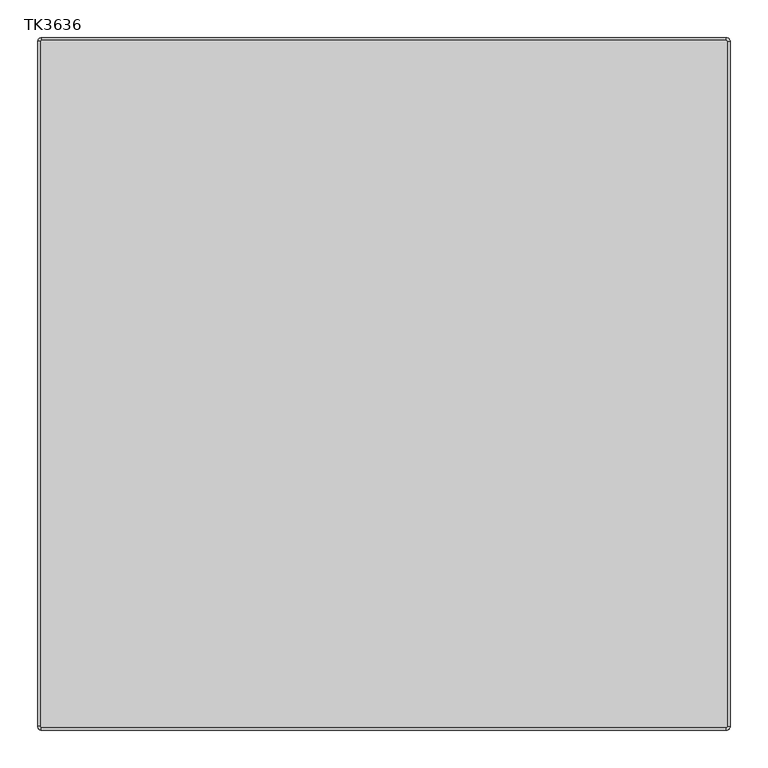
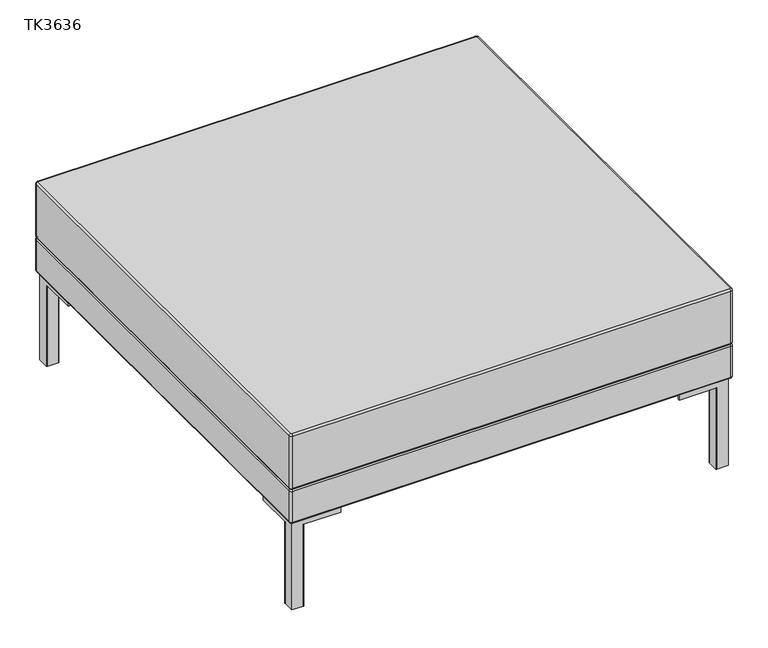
"""IFC4 building model written with IfcOpenShell, lengths in millimetres: furniture geometry, JSI-Teekan-Square_Ottoman : TK3636."""

from ifc_helpers import new_model, si_unit, point, frame, origin, place, context, project, spatial, circle_curve, ellipse_curve, trimmed, source, transform, mapped, element, save
from ifc_brep_helpers import plane_surface, cylinder_surface, revolved_surface, advanced_brep


def tk3636_2cfd0a29(model_context):
    return source(origin(), model_context, "Body", "AdvancedBrep", [
        advanced_brep(
        [(407.9875, -349.25, 192.6567329), (349.25, -407.9875, 192.6567329), (349.25, -449.2963055, 192.6567329), (449.2963055, -449.2963055, 192.6567329), (449.2963055, -349.25, 192.6567329), (349.25, -407.9875, 189.4817329), (407.9875, -349.25, 189.4817329), (447.675, -349.25, 189.4817329), (447.675, -425.45, 189.4817329), (427.0445539, -425.45, 189.4817329), (425.45, -427.0445539, 189.4817329), (425.45, -447.675, 189.4817329), (349.25, -447.675, 189.4817329), (450.85, -349.25, 191.1030384), (450.85, -349.25, 178.3692329), (447.675, -349.25, 178.3692329), (349.25, -447.675, 178.3692329), (349.25, -450.85, 178.3692329), (349.25, -450.85, 191.1030384), (449.2715276, -425.45, 0.0), (450.85, -427.0284724, 0.0), (450.85, -450.85, 0.0), (427.0303762, -450.85, 0.0), (425.45, -449.2696238, 0.0), (425.45, -427.0445539, 0.0), (427.0445539, -425.45, 0.0), (447.675, -425.45, 178.3692329), (449.2715276, -425.45, 178.3692329), (425.45, -449.2696238, 178.3692329), (425.45, -447.675, 178.3692329), (427.0303762, -450.85, 178.3692329), (450.85, -450.85, 191.1030384), (450.85, -427.0284724, 178.3692329)],
        [
            (0, 1),
            (1, 2),
            (2, 3),
            (3, 4),
            (4, 0),
            (5, 6),
            (6, 7),
            (7, 8),
            (8, 9),
            (9, 10, circle_curve(frame((427.0445539, -427.0445539, 189.4817329), z_axis=(0.0, 0.0, 1.0), x_axis=(-1.0, 0.0, 0.0)), 1.5945539)),
            (10, 11),
            (11, 12),
            (12, 5),
            (4, 13, circle_curve(frame((449.2963055, -349.25, 191.1030384), z_axis=(0.0, 1.0, 0.0), x_axis=(-1.0, 0.0, 0.0)), 1.5536945)),
            (13, 14),
            (14, 15),
            (15, 7),
            (6, 0),
            (5, 1),
            (12, 16),
            (16, 17),
            (17, 18),
            (18, 2, circle_curve(frame((349.25, -449.2963055, 191.1030384), z_axis=(-1.0, 0.0, 0.0), x_axis=(0.0, 1.0, 0.0)), 1.5536945)),
            (19, 20, circle_curve(frame((449.2715276, -427.0284724, 0.0), z_axis=(0.0, 0.0, -1.0), x_axis=(-1.0, 0.0, 0.0)), 1.5784724)),
            (20, 21),
            (21, 22),
            (22, 23, circle_curve(frame((427.0303762, -449.2696238, 0.0), z_axis=(0.0, 0.0, -1.0), x_axis=(-1.0, 0.0, 0.0)), 1.5803762)),
            (23, 24),
            (24, 25, circle_curve(frame((427.0445539, -427.0445539, 0.0), z_axis=(0.0, 0.0, -1.0), x_axis=(-1.0, 0.0, 0.0)), 1.5945539)),
            (25, 19),
            (25, 9),
            (8, 26),
            (26, 27),
            (27, 19),
            (24, 10),
            (23, 28),
            (28, 29),
            (29, 11),
            (22, 30),
            (30, 28, circle_curve(frame((427.0303762, -449.2696238, 178.3692329), z_axis=(0.0, 0.0, -1.0), x_axis=(-1.0, 0.0, 0.0)), 1.5803762)),
            (21, 31),
            (31, 18),
            (17, 30),
            (20, 32),
            (32, 14),
            (13, 31),
            (27, 32, circle_curve(frame((449.2715276, -427.0284724, 178.3692329), z_axis=(0.0, 0.0, -1.0), x_axis=(-1.0, 0.0, 0.0)), 1.5784724)),
            (29, 16),
            (26, 15),
            (31, 3, ellipse_curve(frame((449.2963055, -449.2963055, 191.1030384), z_axis=(-0.7071067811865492, -0.7071067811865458, 0.0), x_axis=(-0.7071067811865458, 0.7071067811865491, 0.0)), 2.1972559, 1.5536945)),
        ],
        [
            plane_surface(frame((435.0204481, -435.0204481, 192.6567329), z_axis=(0.0, 0.0, 1.0), x_axis=(1.0, 0.0, 0.0))),
            plane_surface(frame((435.0204481, -435.0204481, 189.4817329), z_axis=(0.0, 0.0, -1.0), x_axis=(-1.0, 0.0, 0.0))),
            plane_surface(frame((435.0204481, -349.25, 192.6567329), z_axis=(0.0, 1.0, 0.0), x_axis=(0.0, 0.0, -1.0))),
            plane_surface(frame((407.9875, -349.25, 192.6567329), z_axis=(-0.7071067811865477, 0.7071067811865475, 0.0), x_axis=(0.0, 0.0, -1.0))),
            plane_surface(frame((349.25, -407.9875, 192.6567329), z_axis=(-1.0, 0.0, 0.0), x_axis=(0.0, 0.0, -1.0))),
            plane_surface(frame((427.0375, -425.45, 0.0), z_axis=(0.0, 0.0, -1.0), x_axis=(1.0, 0.0, 0.0))),
            plane_surface(frame((449.2715276, -425.45, 189.4817329), z_axis=(0.0, 1.0, 0.0), x_axis=(0.0, 0.0, -1.0))),
            cylinder_surface(frame((427.0445539, -427.0445539, 0.0), z_axis=(0.0, 0.0, 1.0), x_axis=(-1.0, 0.0, 0.0)), 1.5945539),
            plane_surface(frame((425.45, -427.0445539, 189.4817329), z_axis=(-1.0, 0.0, 0.0), x_axis=(0.0, 0.0, -1.0))),
            cylinder_surface(frame((427.0303762, -449.2696238, 0.0), z_axis=(0.0, 0.0, 1.0), x_axis=(-1.0, 0.0, 0.0)), 1.5803762),
            plane_surface(frame((427.0303762, -450.85, 189.4817329), z_axis=(0.0, -1.0, 0.0), x_axis=(0.0, 0.0, -1.0))),
            plane_surface(frame((450.85, -450.85, 189.4817329), z_axis=(1.0, 0.0, 0.0), x_axis=(0.0, 0.0, -1.0))),
            cylinder_surface(frame((449.2715276, -427.0284724, 0.0), z_axis=(0.0, 0.0, 1.0), x_axis=(-1.0, 0.0, 0.0)), 1.5784724),
            plane_surface(frame((349.25, -447.675, 189.4817329), z_axis=(0.0, 1.0, 0.0), x_axis=(1.0, 0.0, 0.0))),
            plane_surface(frame((349.25, -447.675, 178.3692329), z_axis=(0.0, 0.0, -1.0), x_axis=(1.0, 0.0, 0.0))),
            cylinder_surface(frame((349.25, -449.2963055, 191.1030384), z_axis=(-1.0, 0.0, 0.0), x_axis=(0.0, 1.0, 0.0)), 1.5536945),
            plane_surface(frame((447.675, -447.675, 189.4817329), z_axis=(-1.0, 0.0, 0.0), x_axis=(0.0, 1.0, 0.0))),
            cylinder_surface(frame((449.2963055, -450.85, 191.1030384), z_axis=(0.0, -1.0, 0.0), x_axis=(-1.0, 0.0, 0.0)), 1.5536945),
        ],
        [
            (0, [[1, 2, 3, 4, 5]]),
            (1, [[6, 7, 8, 9, 10, 11, 12, 13]]),
            (2, [[-5, 14, 15, 16, 17, -7, 18]]),
            (3, [[-1, -18, -6, 19]]),
            (4, [[-2, -19, -13, 20, 21, 22, 23]]),
            (5, [[24, 25, 26, 27, 28, 29, 30]]),
            (6, [[-30, 31, -9, 32, 33, 34]]),
            (7, [[-29, 35, -10, -31]]),
            (8, [[-28, 36, 37, 38, -11, -35]]),
            (9, [[-27, 39, 40, -36]]),
            (10, [[-26, 41, 42, -22, 43, -39]]),
            (11, [[-41, -25, 44, 45, -15, 46]]),
            (12, [[-24, -34, 47, -44]]),
            (13, [[-20, -12, -38, 48]]),
            (14, [[-16, -45, -47, -33, 49]]),
            (14, [[-21, -48, -37, -40, -43]]),
            (15, [[-23, -42, 50, -3]]),
            (16, [[-17, -49, -32, -8]]),
            (17, [[-50, -46, -14, -4]]),
        ],
    ),
        advanced_brep(
        [(407.9875, 349.25, 192.6567329), (449.2963055, 349.25, 192.6567329), (449.2963055, 449.2963055, 192.6567329), (349.25, 449.2963055, 192.6567329), (349.25, 407.9875, 192.6567329), (349.25, 407.9875, 189.4817329), (349.25, 447.675, 189.4817329), (425.45, 447.675, 189.4817329), (425.45, 427.0445539, 189.4817329), (427.0445539, 425.45, 189.4817329), (447.675, 425.45, 189.4817329), (447.675, 349.25, 189.4817329), (407.9875, 349.25, 189.4817329), (447.675, 349.25, 178.3692329), (450.85, 349.25, 178.3692329), (450.85, 349.25, 191.1030384), (349.25, 450.85, 191.1030384), (349.25, 450.85, 178.3692329), (349.25, 447.675, 178.3692329), (449.2715276, 425.45, 0.0), (427.0445539, 425.45, 0.0), (425.45, 427.0445539, 0.0), (425.45, 449.2696238, 0.0), (427.0303762, 450.85, 0.0), (450.85, 450.85, 0.0), (450.85, 427.0284724, 0.0), (449.2715276, 425.45, 178.3692329), (447.675, 425.45, 178.3692329), (425.45, 447.675, 178.3692329), (425.45, 449.2696238, 178.3692329), (427.0303762, 450.85, 178.3692329), (450.85, 450.85, 191.1030384), (450.85, 427.0284724, 178.3692329)],
        [
            (0, 1),
            (1, 2),
            (2, 3),
            (3, 4),
            (4, 0),
            (5, 6),
            (6, 7),
            (7, 8),
            (8, 9, circle_curve(frame((427.0445539, 427.0445539, 189.4817329), z_axis=(0.0, 0.0, 1.0), x_axis=(-1.0, 0.0, 0.0)), 1.5945539)),
            (9, 10),
            (10, 11),
            (11, 12),
            (12, 5),
            (0, 12),
            (11, 13),
            (13, 14),
            (14, 15),
            (15, 1, circle_curve(frame((449.2963055, 349.25, 191.1030384), z_axis=(0.0, -1.0, 0.0), x_axis=(-1.0, 0.0, 0.0)), 1.5536945)),
            (4, 5),
            (3, 16, circle_curve(frame((349.25, 449.2963055, 191.1030384), z_axis=(-1.0, 0.0, 0.0), x_axis=(0.0, -1.0, 0.0)), 1.5536945)),
            (16, 17),
            (17, 18),
            (18, 6),
            (19, 20),
            (20, 21, circle_curve(frame((427.0445539, 427.0445539, 0.0), z_axis=(0.0, 0.0, -1.0), x_axis=(-1.0, 0.0, 0.0)), 1.5945539)),
            (21, 22),
            (22, 23, circle_curve(frame((427.0303762, 449.2696238, 0.0), z_axis=(0.0, 0.0, -1.0), x_axis=(-1.0, 0.0, 0.0)), 1.5803762)),
            (23, 24),
            (24, 25),
            (25, 19, circle_curve(frame((449.2715276, 427.0284724, 0.0), z_axis=(0.0, 0.0, -1.0), x_axis=(-1.0, 0.0, 0.0)), 1.5784724)),
            (19, 26),
            (26, 27),
            (27, 10),
            (9, 20),
            (8, 21),
            (7, 28),
            (28, 29),
            (29, 22),
            (29, 30, circle_curve(frame((427.0303762, 449.2696238, 178.3692329), z_axis=(0.0, 0.0, -1.0), x_axis=(-1.0, 0.0, 0.0)), 1.5803762)),
            (30, 23),
            (30, 17),
            (16, 31),
            (31, 24),
            (31, 15),
            (14, 32),
            (32, 25),
            (32, 26, circle_curve(frame((449.2715276, 427.0284724, 178.3692329), z_axis=(0.0, 0.0, -1.0), x_axis=(-1.0, 0.0, 0.0)), 1.5784724)),
            (18, 28),
            (13, 27),
            (2, 31, ellipse_curve(frame((449.2963055, 449.2963055, 191.1030384), z_axis=(-0.7071067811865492, 0.7071067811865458, 0.0), x_axis=(-0.7071067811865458, -0.7071067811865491, 0.0)), 2.1972559, 1.5536945)),
        ],
        [
            plane_surface(frame((435.0204481, 435.0204481, 192.6567329), z_axis=(0.0, 0.0, 1.0), x_axis=(1.0, 0.0, 0.0))),
            plane_surface(frame((435.0204481, 435.0204481, 189.4817329), z_axis=(0.0, 0.0, -1.0), x_axis=(-1.0, 0.0, 0.0))),
            plane_surface(frame((435.0204481, 349.25, 192.6567329), z_axis=(0.0, -1.0, 0.0), x_axis=(0.0, 0.0, -1.0))),
            plane_surface(frame((407.9875, 349.25, 192.6567329), z_axis=(-0.7071067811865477, -0.7071067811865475, 0.0), x_axis=(0.0, 0.0, -1.0))),
            plane_surface(frame((349.25, 407.9875, 192.6567329), z_axis=(-1.0, 0.0, 0.0), x_axis=(0.0, 0.0, -1.0))),
            plane_surface(frame((427.0375, 425.45, 0.0), z_axis=(0.0, 0.0, -1.0), x_axis=(1.0, 0.0, 0.0))),
            plane_surface(frame((449.2715276, 425.45, 189.4817329), z_axis=(0.0, -1.0, 0.0), x_axis=(0.0, 0.0, -1.0))),
            cylinder_surface(frame((427.0445539, 427.0445539, 0.0), z_axis=(0.0, 0.0, 1.0), x_axis=(-1.0, 0.0, 0.0)), 1.5945539),
            plane_surface(frame((425.45, 427.0445539, 189.4817329), z_axis=(-1.0, 0.0, 0.0), x_axis=(0.0, 0.0, -1.0))),
            cylinder_surface(frame((427.0303762, 449.2696238, 0.0), z_axis=(0.0, 0.0, 1.0), x_axis=(-1.0, 0.0, 0.0)), 1.5803762),
            plane_surface(frame((427.0303762, 450.85, 189.4817329), z_axis=(0.0, 1.0, 0.0), x_axis=(0.0, 0.0, -1.0))),
            plane_surface(frame((450.85, 450.85, 189.4817329), z_axis=(1.0, 0.0, 0.0), x_axis=(0.0, 0.0, -1.0))),
            cylinder_surface(frame((449.2715276, 427.0284724, 0.0), z_axis=(0.0, 0.0, 1.0), x_axis=(-1.0, 0.0, 0.0)), 1.5784724),
            plane_surface(frame((349.25, 447.675, 189.4817329), z_axis=(0.0, -1.0, 0.0), x_axis=(1.0, 0.0, 0.0))),
            plane_surface(frame((349.25, 447.675, 178.3692329), z_axis=(0.0, 0.0, -1.0), x_axis=(1.0, 0.0, 0.0))),
            cylinder_surface(frame((349.25, 449.2963055, 191.1030384), z_axis=(-1.0, 0.0, 0.0), x_axis=(0.0, -1.0, 0.0)), 1.5536945),
            plane_surface(frame((447.675, 447.675, 189.4817329), z_axis=(-1.0, 0.0, 0.0), x_axis=(0.0, -1.0, 0.0))),
            cylinder_surface(frame((449.2963055, 450.85, 191.1030384), z_axis=(0.0, 1.0, 0.0), x_axis=(-1.0, 0.0, 0.0)), 1.5536945),
        ],
        [
            (0, [[1, 2, 3, 4, 5]]),
            (1, [[6, 7, 8, 9, 10, 11, 12, 13]]),
            (2, [[14, -12, 15, 16, 17, 18, -1]]),
            (3, [[19, -13, -14, -5]]),
            (4, [[20, 21, 22, 23, -6, -19, -4]]),
            (5, [[24, 25, 26, 27, 28, 29, 30]]),
            (6, [[31, 32, 33, -10, 34, -24]]),
            (7, [[-34, -9, 35, -25]]),
            (8, [[-35, -8, 36, 37, 38, -26]]),
            (9, [[-38, 39, 40, -27]]),
            (10, [[-40, 41, -21, 42, 43, -28]]),
            (11, [[44, -17, 45, 46, -29, -43]]),
            (12, [[-46, 47, -31, -30]]),
            (13, [[48, -36, -7, -23]]),
            (14, [[-41, -39, -37, -48, -22]]),
            (14, [[49, -32, -47, -45, -16]]),
            (15, [[-3, 50, -42, -20]]),
            (16, [[-11, -33, -49, -15]]),
            (17, [[-2, -18, -44, -50]]),
        ],
    ),
        advanced_brep(
        [(457.2, 452.4375, 384.2438984), (452.4375, 457.2, 384.2438984), (452.4375, 454.025, 387.4188984), (454.025, 452.4375, 387.4188984), (457.2, 452.4375, 269.9438984), (452.4375, 457.2, 269.9438984), (454.025, 452.4375, 266.7688984), (452.4375, 454.025, 266.7688984), (454.025, -452.4375, 387.4188984), (457.2, -452.4375, 384.2438984), (457.2, -452.4375, 269.9438984), (454.025, -452.4375, 266.7688984), (452.4375, -454.025, 387.4188984), (452.4375, -457.2, 384.2438984), (452.4375, -457.2, 269.9438984), (452.4375, -454.025, 266.7688984), (-452.4375, -454.025, 387.4188984), (-452.4375, -457.2, 384.2438984), (-452.4375, -457.2, 269.9438984), (-452.4375, -454.025, 266.7688984), (-454.025, -452.4375, 387.4188984), (-457.2, -452.4375, 384.2438984), (-457.2, -452.4375, 269.9438984), (-454.025, -452.4375, 266.7688984), (-454.025, 452.4375, 387.4188984), (-457.2, 452.4375, 384.2438984), (-457.2, 452.4375, 269.9438984), (-454.025, 452.4375, 266.7688984), (-452.4375, 454.025, 387.4188984), (-452.4375, 457.2, 384.2438984), (-452.4375, 457.2, 269.9438984), (-452.4375, 454.025, 266.7688984)],
        [
            (0, 1, circle_curve(frame((452.4375, 452.4375, 384.2438984), z_axis=(0.0, 0.0, 1.0), x_axis=(0.0, 1.0, 0.0)), 4.7625)),
            (1, 2, circle_curve(frame((452.4375, 454.025, 384.2438984), z_axis=(1.0, 0.0, 0.0), x_axis=(0.0, 1.0, 0.0)), 3.175)),
            (2, 3, circle_curve(frame((452.4375, 452.4375, 387.4188984), z_axis=(0.0, 0.0, -1.0), x_axis=(0.0, 1.0, 0.0)), 1.5875)),
            (3, 0, circle_curve(frame((454.025, 452.4375, 384.2438984), z_axis=(0.0, 1.0, 0.0), x_axis=(1.0, 0.0, 0.0)), 3.175)),
            (0, 4),
            (4, 5, circle_curve(frame((452.4375, 452.4375, 269.9438984), z_axis=(0.0, 0.0, 1.0), x_axis=(0.0, 1.0, 0.0)), 4.7625)),
            (5, 1),
            (4, 6, circle_curve(frame((454.025, 452.4375, 269.9438984), z_axis=(0.0, 1.0, 0.0), x_axis=(1.0, 0.0, 0.0)), 3.175)),
            (6, 7, circle_curve(frame((452.4375, 452.4375, 266.7688984), z_axis=(0.0, 0.0, 1.0), x_axis=(0.0, 1.0, 0.0)), 1.5875)),
            (7, 5, circle_curve(frame((452.4375, 454.025, 269.9438984), z_axis=(1.0, 0.0, 0.0), x_axis=(0.0, 1.0, 0.0)), 3.175)),
            (3, 8),
            (8, 9, circle_curve(frame((454.025, -452.4375, 384.2438984), z_axis=(0.0, 1.0, 0.0), x_axis=(1.0, 0.0, 0.0)), 3.175)),
            (9, 0),
            (9, 10),
            (10, 4),
            (10, 11, circle_curve(frame((454.025, -452.4375, 269.9438984), z_axis=(0.0, 1.0, 0.0), x_axis=(1.0, 0.0, 0.0)), 3.175)),
            (11, 6),
            (8, 12, circle_curve(frame((452.4375, -452.4375, 387.4188984), z_axis=(0.0, 0.0, -1.0), x_axis=(1.0, 0.0, 0.0)), 1.5875)),
            (12, 13, circle_curve(frame((452.4375, -454.025, 384.2438984), z_axis=(1.0, 0.0, 0.0), x_axis=(0.0, -1.0, 0.0)), 3.175)),
            (13, 9, circle_curve(frame((452.4375, -452.4375, 384.2438984), z_axis=(0.0, 0.0, 1.0), x_axis=(1.0, 0.0, 0.0)), 4.7625)),
            (13, 14),
            (14, 10, circle_curve(frame((452.4375, -452.4375, 269.9438984), z_axis=(0.0, 0.0, 1.0), x_axis=(1.0, 0.0, 0.0)), 4.7625)),
            (14, 15, circle_curve(frame((452.4375, -454.025, 269.9438984), z_axis=(1.0, 0.0, 0.0), x_axis=(0.0, -1.0, 0.0)), 3.175)),
            (15, 11, circle_curve(frame((452.4375, -452.4375, 266.7688984), z_axis=(0.0, 0.0, 1.0), x_axis=(1.0, 0.0, 0.0)), 1.5875)),
            (12, 16),
            (16, 17, circle_curve(frame((-452.4375, -454.025, 384.2438984), z_axis=(1.0, 0.0, 0.0), x_axis=(0.0, -1.0, 0.0)), 3.175)),
            (17, 13),
            (17, 18),
            (18, 14),
            (18, 19, circle_curve(frame((-452.4375, -454.025, 269.9438984), z_axis=(1.0, 0.0, 0.0), x_axis=(0.0, -1.0, 0.0)), 3.175)),
            (19, 15),
            (16, 20, circle_curve(frame((-452.4375, -452.4375, 387.4188984), z_axis=(0.0, 0.0, -1.0), x_axis=(0.0, -1.0, 0.0)), 1.5875)),
            (20, 21, circle_curve(frame((-454.025, -452.4375, 384.2438984), z_axis=(0.0, -1.0, 0.0), x_axis=(-1.0, 0.0, 0.0)), 3.175)),
            (21, 17, circle_curve(frame((-452.4375, -452.4375, 384.2438984), z_axis=(0.0, 0.0, 1.0), x_axis=(0.0, -1.0, 0.0)), 4.7625)),
            (21, 22),
            (22, 18, circle_curve(frame((-452.4375, -452.4375, 269.9438984), z_axis=(0.0, 0.0, 1.0), x_axis=(0.0, -1.0, 0.0)), 4.7625)),
            (22, 23, circle_curve(frame((-454.025, -452.4375, 269.9438984), z_axis=(0.0, -1.0, 0.0), x_axis=(-1.0, 0.0, 0.0)), 3.175)),
            (23, 19, circle_curve(frame((-452.4375, -452.4375, 266.7688984), z_axis=(0.0, 0.0, 1.0), x_axis=(0.0, -1.0, 0.0)), 1.5875)),
            (20, 24),
            (24, 25, circle_curve(frame((-454.025, 452.4375, 384.2438984), z_axis=(0.0, -1.0, 0.0), x_axis=(-1.0, 0.0, 0.0)), 3.175)),
            (25, 21),
            (25, 26),
            (26, 22),
            (26, 27, circle_curve(frame((-454.025, 452.4375, 269.9438984), z_axis=(0.0, -1.0, 0.0), x_axis=(-1.0, 0.0, 0.0)), 3.175)),
            (27, 23),
            (24, 28, circle_curve(frame((-452.4375, 452.4375, 387.4188984), z_axis=(0.0, 0.0, -1.0), x_axis=(-1.0, 0.0, 0.0)), 1.5875)),
            (28, 29, circle_curve(frame((-452.4375, 454.025, 384.2438984), z_axis=(-1.0, 0.0, 0.0), x_axis=(0.0, 1.0, 0.0)), 3.175)),
            (29, 25, circle_curve(frame((-452.4375, 452.4375, 384.2438984), z_axis=(0.0, 0.0, 1.0), x_axis=(-1.0, 0.0, 0.0)), 4.7625)),
            (29, 30),
            (30, 26, circle_curve(frame((-452.4375, 452.4375, 269.9438984), z_axis=(0.0, 0.0, 1.0), x_axis=(-1.0, 0.0, 0.0)), 4.7625)),
            (30, 31, circle_curve(frame((-452.4375, 454.025, 269.9438984), z_axis=(-1.0, 0.0, 0.0), x_axis=(0.0, 1.0, 0.0)), 3.175)),
            (31, 27, circle_curve(frame((-452.4375, 452.4375, 266.7688984), z_axis=(0.0, 0.0, 1.0), x_axis=(-1.0, 0.0, 0.0)), 1.5875)),
            (31, 7),
            (2, 28),
            (1, 29),
            (5, 30),
        ],
        [
            revolved_surface(trimmed(ellipse_curve(frame((452.4375, 454.025, 384.2438984), z_axis=(-1.0, 0.0, 0.0), x_axis=(0.0, 1.0, 0.0)), 3.175, 3.175), [point((452.4375, 454.025, 387.4188984))], [point((452.4375, 457.2, 384.2438984))], True, "CARTESIAN"), (452.4375, 452.4375, 0.0), (0.0, 0.0, -1.0)),
            cylinder_surface(frame((452.4375, 452.4375, 0.0), z_axis=(0.0, 0.0, -1.0), x_axis=(0.0, 1.0, 0.0)), 4.7625),
            revolved_surface(trimmed(ellipse_curve(frame((452.4375, 454.025, 269.9438984), z_axis=(-1.0, 0.0, 0.0), x_axis=(0.0, 1.0, 0.0)), 3.175, 3.175), [point((452.4375, 457.2, 269.9438984))], [point((452.4375, 454.025, 266.7688984))], True, "CARTESIAN"), (452.4375, 452.4375, 0.0), (0.0, 0.0, -1.0)),
            cylinder_surface(frame((454.025, 452.4375, 384.2438984), z_axis=(0.0, 1.0, 0.0), x_axis=(1.0, 0.0, 0.0)), 3.175),
            plane_surface(frame((457.2, 452.4375, 384.2438984), z_axis=(1.0, 0.0, 0.0), x_axis=(0.0, -1.0, 0.0))),
            cylinder_surface(frame((454.025, 452.4375, 269.9438984), z_axis=(0.0, 1.0, 0.0), x_axis=(1.0, 0.0, 0.0)), 3.175),
            revolved_surface(trimmed(ellipse_curve(frame((454.025, -452.4375, 384.2438984), z_axis=(0.0, 1.0, 0.0), x_axis=(1.0, 0.0, 0.0)), 3.175, 3.175), [point((454.025, -452.4375, 387.4188984))], [point((457.2, -452.4375, 384.2438984))], True, "CARTESIAN"), (452.4375, -452.4375, 0.0), (0.0, 0.0, -1.0)),
            cylinder_surface(frame((452.4375, -452.4375, 0.0), z_axis=(0.0, 0.0, -1.0), x_axis=(1.0, 0.0, 0.0)), 4.7625),
            revolved_surface(trimmed(ellipse_curve(frame((454.025, -452.4375, 269.9438984), z_axis=(0.0, 1.0, 0.0), x_axis=(1.0, 0.0, 0.0)), 3.175, 3.175), [point((457.2, -452.4375, 269.9438984))], [point((454.025, -452.4375, 266.7688984))], True, "CARTESIAN"), (452.4375, -452.4375, 0.0), (0.0, 0.0, -1.0)),
            cylinder_surface(frame((452.4375, -454.025, 384.2438984), z_axis=(1.0, 0.0, 0.0), x_axis=(0.0, -1.0, 0.0)), 3.175),
            plane_surface(frame((452.4375, -457.2, 384.2438984), z_axis=(0.0, -1.0, 0.0), x_axis=(-1.0, 0.0, 0.0))),
            cylinder_surface(frame((452.4375, -454.025, 269.9438984), z_axis=(1.0, 0.0, 0.0), x_axis=(0.0, -1.0, 0.0)), 3.175),
            revolved_surface(trimmed(ellipse_curve(frame((-452.4375, -454.025, 384.2438984), z_axis=(1.0, 0.0, 0.0), x_axis=(0.0, -1.0, 0.0)), 3.175, 3.175), [point((-452.4375, -454.025, 387.4188984))], [point((-452.4375, -457.2, 384.2438984))], True, "CARTESIAN"), (-452.4375, -452.4375, 0.0), (0.0, 0.0, -1.0)),
            cylinder_surface(frame((-452.4375, -452.4375, 0.0), z_axis=(0.0, 0.0, -1.0), x_axis=(0.0, -1.0, 0.0)), 4.7625),
            revolved_surface(trimmed(ellipse_curve(frame((-452.4375, -454.025, 269.9438984), z_axis=(1.0, 0.0, 0.0), x_axis=(0.0, -1.0, 0.0)), 3.175, 3.175), [point((-452.4375, -457.2, 269.9438984))], [point((-452.4375, -454.025, 266.7688984))], True, "CARTESIAN"), (-452.4375, -452.4375, 0.0), (0.0, 0.0, -1.0)),
            cylinder_surface(frame((-454.025, -452.4375, 384.2438984), z_axis=(0.0, -1.0, 0.0), x_axis=(-1.0, 0.0, 0.0)), 3.175),
            plane_surface(frame((-457.2, -452.4375, 384.2438984), z_axis=(-1.0, 0.0, 0.0), x_axis=(0.0, 1.0, 0.0))),
            cylinder_surface(frame((-454.025, -452.4375, 269.9438984), z_axis=(0.0, -1.0, 0.0), x_axis=(-1.0, 0.0, 0.0)), 3.175),
            revolved_surface(trimmed(ellipse_curve(frame((-454.025, 452.4375, 384.2438984), z_axis=(0.0, -1.0, 0.0), x_axis=(-1.0, 0.0, 0.0)), 3.175, 3.175), [point((-454.025, 452.4375, 387.4188984))], [point((-457.2, 452.4375, 384.2438984))], True, "CARTESIAN"), (-452.4375, 452.4375, 0.0), (0.0, 0.0, -1.0)),
            cylinder_surface(frame((-452.4375, 452.4375, 0.0), z_axis=(0.0, 0.0, -1.0), x_axis=(-1.0, 0.0, 0.0)), 4.7625),
            revolved_surface(trimmed(ellipse_curve(frame((-454.025, 452.4375, 269.9438984), z_axis=(0.0, -1.0, 0.0), x_axis=(-1.0, 0.0, 0.0)), 3.175, 3.175), [point((-457.2, 452.4375, 269.9438984))], [point((-454.025, 452.4375, 266.7688984))], True, "CARTESIAN"), (-452.4375, 452.4375, 0.0), (0.0, 0.0, -1.0)),
            plane_surface(frame((-452.4375, 454.025, 266.7688984), z_axis=(0.0, 0.0, -1.0), x_axis=(1.0, 0.0, 0.0))),
            plane_surface(frame((-452.4375, 453.23125, 387.4188984), z_axis=(0.0, 0.0, 1.0), x_axis=(1.0, 0.0, 0.0))),
            cylinder_surface(frame((-452.4375, 454.025, 384.2438984), z_axis=(-1.0, 0.0, 0.0), x_axis=(0.0, 1.0, 0.0)), 3.175),
            plane_surface(frame((-452.4375, 457.2, 384.2438984), z_axis=(0.0, 1.0, 0.0), x_axis=(1.0, 0.0, 0.0))),
            cylinder_surface(frame((-452.4375, 454.025, 269.9438984), z_axis=(-1.0, 0.0, 0.0), x_axis=(0.0, 1.0, 0.0)), 3.175),
        ],
        [
            (0, [[1, 2, 3, 4]]),
            (1, [[-1, 5, 6, 7]]),
            (2, [[-6, 8, 9, 10]]),
            (3, [[-4, 11, 12, 13]]),
            (4, [[-5, -13, 14, 15]]),
            (5, [[-8, -15, 16, 17]]),
            (6, [[-12, 18, 19, 20]]),
            (7, [[-14, -20, 21, 22]]),
            (8, [[-16, -22, 23, 24]]),
            (9, [[-19, 25, 26, 27]]),
            (10, [[-21, -27, 28, 29]]),
            (11, [[-23, -29, 30, 31]]),
            (12, [[-26, 32, 33, 34]]),
            (13, [[-28, -34, 35, 36]]),
            (14, [[-30, -36, 37, 38]]),
            (15, [[-33, 39, 40, 41]]),
            (16, [[-35, -41, 42, 43]]),
            (17, [[-37, -43, 44, 45]]),
            (18, [[-40, 46, 47, 48]]),
            (19, [[-42, -48, 49, 50]]),
            (20, [[-44, -50, 51, 52]]),
            (21, [[-9, -17, -24, -31, -38, -45, -52, 53]]),
            (22, [[-3, 54, -46, -39, -32, -25, -18, -11]]),
            (23, [[-2, 55, -47, -54]]),
            (24, [[-7, 56, -49, -55]]),
            (25, [[-10, -53, -51, -56]]),
        ],
    ),
        advanced_brep(
        [(-407.9875, -349.25, 192.6567329), (-449.2963055, -349.25, 192.6567329), (-449.2963055, -449.2963055, 192.6567329), (-349.25, -449.2963055, 192.6567329), (-349.25, -407.9875, 192.6567329), (-349.25, -407.9875, 189.4817329), (-349.25, -447.675, 189.4817329), (-425.45, -447.675, 189.4817329), (-425.45, -427.0445539, 189.4817329), (-427.0445539, -425.45, 189.4817329), (-447.675, -425.45, 189.4817329), (-447.675, -349.25, 189.4817329), (-407.9875, -349.25, 189.4817329), (-447.675, -349.25, 178.3692329), (-450.85, -349.25, 178.3692329), (-450.85, -349.25, 191.1030384), (-349.25, -450.85, 191.1030384), (-349.25, -450.85, 178.3692329), (-349.25, -447.675, 178.3692329), (-449.2715276, -425.45, 0.0), (-427.0445539, -425.45, 0.0), (-425.45, -427.0445539, 0.0), (-425.45, -449.2696238, 0.0), (-427.0303762, -450.85, 0.0), (-450.85, -450.85, 0.0), (-450.85, -427.0284724, 0.0), (-449.2715276, -425.45, 178.3692329), (-447.675, -425.45, 178.3692329), (-425.45, -447.675, 178.3692329), (-425.45, -449.2696238, 178.3692329), (-427.0303762, -450.85, 178.3692329), (-450.85, -450.85, 191.1030384), (-450.85, -427.0284724, 178.3692329)],
        [
            (0, 1),
            (1, 2),
            (2, 3),
            (3, 4),
            (4, 0),
            (5, 6),
            (6, 7),
            (7, 8),
            (8, 9, circle_curve(frame((-427.0445539, -427.0445539, 189.4817329), z_axis=(0.0, 0.0, 1.0), x_axis=(1.0, 0.0, 0.0)), 1.5945539)),
            (9, 10),
            (10, 11),
            (11, 12),
            (12, 5),
            (0, 12),
            (11, 13),
            (13, 14),
            (14, 15),
            (15, 1, circle_curve(frame((-449.2963055, -349.25, 191.1030384), z_axis=(0.0, 1.0, 0.0), x_axis=(1.0, 0.0, 0.0)), 1.5536945)),
            (4, 5),
            (3, 16, circle_curve(frame((-349.25, -449.2963055, 191.1030384), z_axis=(1.0, 0.0, 0.0), x_axis=(0.0, 1.0, 0.0)), 1.5536945)),
            (16, 17),
            (17, 18),
            (18, 6),
            (19, 20),
            (20, 21, circle_curve(frame((-427.0445539, -427.0445539, 0.0), z_axis=(0.0, 0.0, -1.0), x_axis=(1.0, 0.0, 0.0)), 1.5945539)),
            (21, 22),
            (22, 23, circle_curve(frame((-427.0303762, -449.2696238, 0.0), z_axis=(0.0, 0.0, -1.0), x_axis=(1.0, 0.0, 0.0)), 1.5803762)),
            (23, 24),
            (24, 25),
            (25, 19, circle_curve(frame((-449.2715276, -427.0284724, 0.0), z_axis=(0.0, 0.0, -1.0), x_axis=(1.0, 0.0, 0.0)), 1.5784724)),
            (19, 26),
            (26, 27),
            (27, 10),
            (9, 20),
            (8, 21),
            (7, 28),
            (28, 29),
            (29, 22),
            (29, 30, circle_curve(frame((-427.0303762, -449.2696238, 178.3692329), z_axis=(0.0, 0.0, -1.0), x_axis=(1.0, 0.0, 0.0)), 1.5803762)),
            (30, 23),
            (30, 17),
            (16, 31),
            (31, 24),
            (31, 15),
            (14, 32),
            (32, 25),
            (32, 26, circle_curve(frame((-449.2715276, -427.0284724, 178.3692329), z_axis=(0.0, 0.0, -1.0), x_axis=(1.0, 0.0, 0.0)), 1.5784724)),
            (18, 28),
            (13, 27),
            (2, 31, ellipse_curve(frame((-449.2963055, -449.2963055, 191.1030384), z_axis=(0.7071067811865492, -0.7071067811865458, 0.0), x_axis=(0.7071067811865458, 0.7071067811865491, 0.0)), 2.1972559, 1.5536945)),
        ],
        [
            plane_surface(frame((-435.0204481, -435.0204481, 192.6567329), z_axis=(0.0, 0.0, 1.0), x_axis=(-1.0, 0.0, 0.0))),
            plane_surface(frame((-435.0204481, -435.0204481, 189.4817329), z_axis=(0.0, 0.0, -1.0), x_axis=(1.0, 0.0, 0.0))),
            plane_surface(frame((-435.0204481, -349.25, 192.6567329), z_axis=(0.0, 1.0, 0.0), x_axis=(0.0, 0.0, -1.0))),
            plane_surface(frame((-407.9875, -349.25, 192.6567329), z_axis=(0.7071067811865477, 0.7071067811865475, 0.0), x_axis=(0.0, 0.0, -1.0))),
            plane_surface(frame((-349.25, -407.9875, 192.6567329), z_axis=(1.0, 0.0, 0.0), x_axis=(0.0, 0.0, -1.0))),
            plane_surface(frame((-427.0375, -425.45, 0.0), z_axis=(0.0, 0.0, -1.0), x_axis=(-1.0, 0.0, 0.0))),
            plane_surface(frame((-449.2715276, -425.45, 189.4817329), z_axis=(0.0, 1.0, 0.0), x_axis=(0.0, 0.0, -1.0))),
            cylinder_surface(frame((-427.0445539, -427.0445539, 0.0), z_axis=(0.0, 0.0, 1.0), x_axis=(1.0, 0.0, 0.0)), 1.5945539),
            plane_surface(frame((-425.45, -427.0445539, 189.4817329), z_axis=(1.0, 0.0, 0.0), x_axis=(0.0, 0.0, -1.0))),
            cylinder_surface(frame((-427.0303762, -449.2696238, 0.0), z_axis=(0.0, 0.0, 1.0), x_axis=(1.0, 0.0, 0.0)), 1.5803762),
            plane_surface(frame((-427.0303762, -450.85, 189.4817329), z_axis=(0.0, -1.0, 0.0), x_axis=(0.0, 0.0, -1.0))),
            plane_surface(frame((-450.85, -450.85, 189.4817329), z_axis=(-1.0, 0.0, 0.0), x_axis=(0.0, 0.0, -1.0))),
            cylinder_surface(frame((-449.2715276, -427.0284724, 0.0), z_axis=(0.0, 0.0, 1.0), x_axis=(1.0, 0.0, 0.0)), 1.5784724),
            plane_surface(frame((-349.25, -447.675, 189.4817329), z_axis=(0.0, 1.0, 0.0), x_axis=(-1.0, 0.0, 0.0))),
            plane_surface(frame((-349.25, -447.675, 178.3692329), z_axis=(0.0, 0.0, -1.0), x_axis=(-1.0, 0.0, 0.0))),
            cylinder_surface(frame((-349.25, -449.2963055, 191.1030384), z_axis=(1.0, 0.0, 0.0), x_axis=(0.0, 1.0, 0.0)), 1.5536945),
            plane_surface(frame((-447.675, -447.675, 189.4817329), z_axis=(1.0, 0.0, 0.0), x_axis=(0.0, 1.0, 0.0))),
            cylinder_surface(frame((-449.2963055, -450.85, 191.1030384), z_axis=(0.0, -1.0, 0.0), x_axis=(1.0, 0.0, 0.0)), 1.5536945),
        ],
        [
            (0, [[1, 2, 3, 4, 5]]),
            (1, [[6, 7, 8, 9, 10, 11, 12, 13]]),
            (2, [[14, -12, 15, 16, 17, 18, -1]]),
            (3, [[19, -13, -14, -5]]),
            (4, [[20, 21, 22, 23, -6, -19, -4]]),
            (5, [[24, 25, 26, 27, 28, 29, 30]]),
            (6, [[31, 32, 33, -10, 34, -24]]),
            (7, [[-34, -9, 35, -25]]),
            (8, [[-35, -8, 36, 37, 38, -26]]),
            (9, [[-38, 39, 40, -27]]),
            (10, [[-40, 41, -21, 42, 43, -28]]),
            (11, [[44, -17, 45, 46, -29, -43]]),
            (12, [[-46, 47, -31, -30]]),
            (13, [[48, -36, -7, -23]]),
            (14, [[-41, -39, -37, -48, -22]]),
            (14, [[49, -32, -47, -45, -16]]),
            (15, [[-3, 50, -42, -20]]),
            (16, [[-11, -33, -49, -15]]),
            (17, [[-2, -18, -44, -50]]),
        ],
    ),
        advanced_brep(
        [(-407.9875, 349.25, 192.6567329), (-349.25, 407.9875, 192.6567329), (-349.25, 449.2963055, 192.6567329), (-449.2963055, 449.2963055, 192.6567329), (-449.2963055, 349.25, 192.6567329), (-349.25, 407.9875, 189.4817329), (-407.9875, 349.25, 189.4817329), (-447.675, 349.25, 189.4817329), (-447.675, 425.45, 189.4817329), (-427.0445539, 425.45, 189.4817329), (-425.45, 427.0445539, 189.4817329), (-425.45, 447.675, 189.4817329), (-349.25, 447.675, 189.4817329), (-450.85, 349.25, 191.1030384), (-450.85, 349.25, 178.3692329), (-447.675, 349.25, 178.3692329), (-349.25, 447.675, 178.3692329), (-349.25, 450.85, 178.3692329), (-349.25, 450.85, 191.1030384), (-449.2715276, 425.45, 0.0), (-450.85, 427.0284724, 0.0), (-450.85, 450.85, 0.0), (-427.0303762, 450.85, 0.0), (-425.45, 449.2696238, 0.0), (-425.45, 427.0445539, 0.0), (-427.0445539, 425.45, 0.0), (-447.675, 425.45, 178.3692329), (-449.2715276, 425.45, 178.3692329), (-425.45, 449.2696238, 178.3692329), (-425.45, 447.675, 178.3692329), (-427.0303762, 450.85, 178.3692329), (-450.85, 450.85, 191.1030384), (-450.85, 427.0284724, 178.3692329)],
        [
            (0, 1),
            (1, 2),
            (2, 3),
            (3, 4),
            (4, 0),
            (5, 6),
            (6, 7),
            (7, 8),
            (8, 9),
            (9, 10, circle_curve(frame((-427.0445539, 427.0445539, 189.4817329), z_axis=(0.0, 0.0, 1.0), x_axis=(1.0, 0.0, 0.0)), 1.5945539)),
            (10, 11),
            (11, 12),
            (12, 5),
            (4, 13, circle_curve(frame((-449.2963055, 349.25, 191.1030384), z_axis=(0.0, -1.0, 0.0), x_axis=(1.0, 0.0, 0.0)), 1.5536945)),
            (13, 14),
            (14, 15),
            (15, 7),
            (6, 0),
            (5, 1),
            (12, 16),
            (16, 17),
            (17, 18),
            (18, 2, circle_curve(frame((-349.25, 449.2963055, 191.1030384), z_axis=(1.0, 0.0, 0.0), x_axis=(0.0, -1.0, 0.0)), 1.5536945)),
            (19, 20, circle_curve(frame((-449.2715276, 427.0284724, 0.0), z_axis=(0.0, 0.0, -1.0), x_axis=(1.0, 0.0, 0.0)), 1.5784724)),
            (20, 21),
            (21, 22),
            (22, 23, circle_curve(frame((-427.0303762, 449.2696238, 0.0), z_axis=(0.0, 0.0, -1.0), x_axis=(1.0, 0.0, 0.0)), 1.5803762)),
            (23, 24),
            (24, 25, circle_curve(frame((-427.0445539, 427.0445539, 0.0), z_axis=(0.0, 0.0, -1.0), x_axis=(1.0, 0.0, 0.0)), 1.5945539)),
            (25, 19),
            (25, 9),
            (8, 26),
            (26, 27),
            (27, 19),
            (24, 10),
            (23, 28),
            (28, 29),
            (29, 11),
            (22, 30),
            (30, 28, circle_curve(frame((-427.0303762, 449.2696238, 178.3692329), z_axis=(0.0, 0.0, -1.0), x_axis=(1.0, 0.0, 0.0)), 1.5803762)),
            (21, 31),
            (31, 18),
            (17, 30),
            (20, 32),
            (32, 14),
            (13, 31),
            (27, 32, circle_curve(frame((-449.2715276, 427.0284724, 178.3692329), z_axis=(0.0, 0.0, -1.0), x_axis=(1.0, 0.0, 0.0)), 1.5784724)),
            (29, 16),
            (26, 15),
            (31, 3, ellipse_curve(frame((-449.2963055, 449.2963055, 191.1030384), z_axis=(0.7071067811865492, 0.7071067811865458, 0.0), x_axis=(0.7071067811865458, -0.7071067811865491, 0.0)), 2.1972559, 1.5536945)),
        ],
        [
            plane_surface(frame((-435.0204481, 435.0204481, 192.6567329), z_axis=(0.0, 0.0, 1.0), x_axis=(-1.0, 0.0, 0.0))),
            plane_surface(frame((-435.0204481, 435.0204481, 189.4817329), z_axis=(0.0, 0.0, -1.0), x_axis=(1.0, 0.0, 0.0))),
            plane_surface(frame((-435.0204481, 349.25, 192.6567329), z_axis=(0.0, -1.0, 0.0), x_axis=(0.0, 0.0, -1.0))),
            plane_surface(frame((-407.9875, 349.25, 192.6567329), z_axis=(0.7071067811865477, -0.7071067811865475, 0.0), x_axis=(0.0, 0.0, -1.0))),
            plane_surface(frame((-349.25, 407.9875, 192.6567329), z_axis=(1.0, 0.0, 0.0), x_axis=(0.0, 0.0, -1.0))),
            plane_surface(frame((-427.0375, 425.45, 0.0), z_axis=(0.0, 0.0, -1.0), x_axis=(-1.0, 0.0, 0.0))),
            plane_surface(frame((-449.2715276, 425.45, 189.4817329), z_axis=(0.0, -1.0, 0.0), x_axis=(0.0, 0.0, -1.0))),
            cylinder_surface(frame((-427.0445539, 427.0445539, 0.0), z_axis=(0.0, 0.0, 1.0), x_axis=(1.0, 0.0, 0.0)), 1.5945539),
            plane_surface(frame((-425.45, 427.0445539, 189.4817329), z_axis=(1.0, 0.0, 0.0), x_axis=(0.0, 0.0, -1.0))),
            cylinder_surface(frame((-427.0303762, 449.2696238, 0.0), z_axis=(0.0, 0.0, 1.0), x_axis=(1.0, 0.0, 0.0)), 1.5803762),
            plane_surface(frame((-427.0303762, 450.85, 189.4817329), z_axis=(0.0, 1.0, 0.0), x_axis=(0.0, 0.0, -1.0))),
            plane_surface(frame((-450.85, 450.85, 189.4817329), z_axis=(-1.0, 0.0, 0.0), x_axis=(0.0, 0.0, -1.0))),
            cylinder_surface(frame((-449.2715276, 427.0284724, 0.0), z_axis=(0.0, 0.0, 1.0), x_axis=(1.0, 0.0, 0.0)), 1.5784724),
            plane_surface(frame((-349.25, 447.675, 189.4817329), z_axis=(0.0, -1.0, 0.0), x_axis=(-1.0, 0.0, 0.0))),
            plane_surface(frame((-349.25, 447.675, 178.3692329), z_axis=(0.0, 0.0, -1.0), x_axis=(-1.0, 0.0, 0.0))),
            cylinder_surface(frame((-349.25, 449.2963055, 191.1030384), z_axis=(1.0, 0.0, 0.0), x_axis=(0.0, -1.0, 0.0)), 1.5536945),
            plane_surface(frame((-447.675, 447.675, 189.4817329), z_axis=(1.0, 0.0, 0.0), x_axis=(0.0, -1.0, 0.0))),
            cylinder_surface(frame((-449.2963055, 450.85, 191.1030384), z_axis=(0.0, 1.0, 0.0), x_axis=(1.0, 0.0, 0.0)), 1.5536945),
        ],
        [
            (0, [[1, 2, 3, 4, 5]]),
            (1, [[6, 7, 8, 9, 10, 11, 12, 13]]),
            (2, [[-5, 14, 15, 16, 17, -7, 18]]),
            (3, [[-1, -18, -6, 19]]),
            (4, [[-2, -19, -13, 20, 21, 22, 23]]),
            (5, [[24, 25, 26, 27, 28, 29, 30]]),
            (6, [[-30, 31, -9, 32, 33, 34]]),
            (7, [[-29, 35, -10, -31]]),
            (8, [[-28, 36, 37, 38, -11, -35]]),
            (9, [[-27, 39, 40, -36]]),
            (10, [[-26, 41, 42, -22, 43, -39]]),
            (11, [[-41, -25, 44, 45, -15, 46]]),
            (12, [[-24, -34, 47, -44]]),
            (13, [[-20, -12, -38, 48]]),
            (14, [[-16, -45, -47, -33, 49]]),
            (14, [[-21, -48, -37, -40, -43]]),
            (15, [[-23, -42, 50, -3]]),
            (16, [[-17, -49, -32, -8]]),
            (17, [[-50, -46, -14, -4]]),
        ],
    ),
        advanced_brep(
        [(454.025, 452.4375, 266.7), (452.4375, 454.025, 266.7), (-452.4375, 454.025, 266.7), (-454.025, 452.4375, 266.7), (-454.025, -452.4375, 266.7), (-452.4375, -454.025, 266.7), (452.4375, -454.025, 266.7), (454.025, -452.4375, 266.7), (452.4375, 454.025, 192.7721851), (454.025, 452.4375, 192.7721851), (454.025, -452.4375, 192.7721851), (452.4375, -454.025, 192.7721851), (-452.4375, -454.025, 192.7721851), (-454.025, -452.4375, 192.7721851), (-454.025, 452.4375, 192.7721851), (-452.4375, 454.025, 192.7721851), (457.2, 452.4375, 263.525), (452.4375, 457.2, 263.525), (457.2, 452.4375, 195.9471851), (452.4375, 457.2, 195.9471851), (457.2, -452.4375, 263.525), (457.2, -452.4375, 195.9471851), (452.4375, -457.2, 263.525), (452.4375, -457.2, 195.9471851), (-452.4375, -457.2, 263.525), (-452.4375, -457.2, 195.9471851), (-457.2, -452.4375, 263.525), (-457.2, -452.4375, 195.9471851), (-457.2, 452.4375, 263.525), (-457.2, 452.4375, 195.9471851), (-452.4375, 457.2, 263.525), (-452.4375, 457.2, 195.9471851)],
        [
            (0, 1, circle_curve(frame((452.4375, 452.4375, 266.7), z_axis=(0.0, 0.0, 1.0), x_axis=(0.0, 1.0, 0.0)), 1.5875)),
            (1, 2),
            (2, 3, circle_curve(frame((-452.4375, 452.4375, 266.7), z_axis=(0.0, 0.0, 1.0), x_axis=(-1.0, 0.0, 0.0)), 1.5875)),
            (3, 4),
            (4, 5, circle_curve(frame((-452.4375, -452.4375, 266.7), z_axis=(0.0, 0.0, 1.0), x_axis=(0.0, -1.0, 0.0)), 1.5875)),
            (5, 6),
            (6, 7, circle_curve(frame((452.4375, -452.4375, 266.7), z_axis=(0.0, 0.0, 1.0), x_axis=(1.0, 0.0, 0.0)), 1.5875)),
            (7, 0),
            (8, 9, circle_curve(frame((452.4375, 452.4375, 192.7721851), z_axis=(0.0, 0.0, -1.0), x_axis=(0.0, 1.0, 0.0)), 1.5875)),
            (9, 10),
            (10, 11, circle_curve(frame((452.4375, -452.4375, 192.7721851), z_axis=(0.0, 0.0, -1.0), x_axis=(1.0, 0.0, 0.0)), 1.5875)),
            (11, 12),
            (12, 13, circle_curve(frame((-452.4375, -452.4375, 192.7721851), z_axis=(0.0, 0.0, -1.0), x_axis=(0.0, -1.0, 0.0)), 1.5875)),
            (13, 14),
            (14, 15, circle_curve(frame((-452.4375, 452.4375, 192.7721851), z_axis=(0.0, 0.0, -1.0), x_axis=(-1.0, 0.0, 0.0)), 1.5875)),
            (15, 8),
            (16, 17, circle_curve(frame((452.4375, 452.4375, 263.525), z_axis=(0.0, 0.0, 1.0), x_axis=(0.0, 1.0, 0.0)), 4.7625)),
            (17, 1, circle_curve(frame((452.4375, 454.025, 263.525), z_axis=(1.0, 0.0, 0.0), x_axis=(0.0, 1.0, 0.0)), 3.175)),
            (0, 16, circle_curve(frame((454.025, 452.4375, 263.525), z_axis=(0.0, 1.0, 0.0), x_axis=(1.0, 0.0, 0.0)), 3.175)),
            (16, 18),
            (18, 19, circle_curve(frame((452.4375, 452.4375, 195.9471851), z_axis=(0.0, 0.0, 1.0), x_axis=(0.0, 1.0, 0.0)), 4.7625)),
            (19, 17),
            (18, 9, circle_curve(frame((454.025, 452.4375, 195.9471851), z_axis=(0.0, 1.0, 0.0), x_axis=(1.0, 0.0, 0.0)), 3.175)),
            (8, 19, circle_curve(frame((452.4375, 454.025, 195.9471851), z_axis=(1.0, 0.0, 0.0), x_axis=(0.0, 1.0, 0.0)), 3.175)),
            (7, 20, circle_curve(frame((454.025, -452.4375, 263.525), z_axis=(0.0, 1.0, 0.0), x_axis=(1.0, 0.0, 0.0)), 3.175)),
            (20, 16),
            (20, 21),
            (21, 18),
            (21, 10, circle_curve(frame((454.025, -452.4375, 195.9471851), z_axis=(0.0, 1.0, 0.0), x_axis=(1.0, 0.0, 0.0)), 3.175)),
            (6, 22, circle_curve(frame((452.4375, -454.025, 263.525), z_axis=(1.0, 0.0, 0.0), x_axis=(0.0, -1.0, 0.0)), 3.175)),
            (22, 20, circle_curve(frame((452.4375, -452.4375, 263.525), z_axis=(0.0, 0.0, 1.0), x_axis=(1.0, 0.0, 0.0)), 4.7625)),
            (22, 23),
            (23, 21, circle_curve(frame((452.4375, -452.4375, 195.9471851), z_axis=(0.0, 0.0, 1.0), x_axis=(1.0, 0.0, 0.0)), 4.7625)),
            (23, 11, circle_curve(frame((452.4375, -454.025, 195.9471851), z_axis=(1.0, 0.0, 0.0), x_axis=(0.0, -1.0, 0.0)), 3.175)),
            (5, 24, circle_curve(frame((-452.4375, -454.025, 263.525), z_axis=(1.0, 0.0, 0.0), x_axis=(0.0, -1.0, 0.0)), 3.175)),
            (24, 22),
            (24, 25),
            (25, 23),
            (25, 12, circle_curve(frame((-452.4375, -454.025, 195.9471851), z_axis=(1.0, 0.0, 0.0), x_axis=(0.0, -1.0, 0.0)), 3.175)),
            (4, 26, circle_curve(frame((-454.025, -452.4375, 263.525), z_axis=(0.0, -1.0, 0.0), x_axis=(-1.0, 0.0, 0.0)), 3.175)),
            (26, 24, circle_curve(frame((-452.4375, -452.4375, 263.525), z_axis=(0.0, 0.0, 1.0), x_axis=(0.0, -1.0, 0.0)), 4.7625)),
            (26, 27),
            (27, 25, circle_curve(frame((-452.4375, -452.4375, 195.9471851), z_axis=(0.0, 0.0, 1.0), x_axis=(0.0, -1.0, 0.0)), 4.7625)),
            (27, 13, circle_curve(frame((-454.025, -452.4375, 195.9471851), z_axis=(0.0, -1.0, 0.0), x_axis=(-1.0, 0.0, 0.0)), 3.175)),
            (3, 28, circle_curve(frame((-454.025, 452.4375, 263.525), z_axis=(0.0, -1.0, 0.0), x_axis=(-1.0, 0.0, 0.0)), 3.175)),
            (28, 26),
            (28, 29),
            (29, 27),
            (29, 14, circle_curve(frame((-454.025, 452.4375, 195.9471851), z_axis=(0.0, -1.0, 0.0), x_axis=(-1.0, 0.0, 0.0)), 3.175)),
            (2, 30, circle_curve(frame((-452.4375, 454.025, 263.525), z_axis=(-1.0, 0.0, 0.0), x_axis=(0.0, 1.0, 0.0)), 3.175)),
            (30, 28, circle_curve(frame((-452.4375, 452.4375, 263.525), z_axis=(0.0, 0.0, 1.0), x_axis=(-1.0, 0.0, 0.0)), 4.7625)),
            (30, 31),
            (31, 29, circle_curve(frame((-452.4375, 452.4375, 195.9471851), z_axis=(0.0, 0.0, 1.0), x_axis=(-1.0, 0.0, 0.0)), 4.7625)),
            (31, 15, circle_curve(frame((-452.4375, 454.025, 195.9471851), z_axis=(-1.0, 0.0, 0.0), x_axis=(0.0, 1.0, 0.0)), 3.175)),
            (17, 30),
            (19, 31),
        ],
        [
            plane_surface(frame((-452.4375, 453.23125, 266.7), z_axis=(0.0, 0.0, 1.0), x_axis=(-1.0, 0.0, 0.0))),
            plane_surface(frame((-452.4375, 453.23125, 192.7721851), z_axis=(0.0, 0.0, -1.0), x_axis=(1.0, 0.0, 0.0))),
            revolved_surface(trimmed(ellipse_curve(frame((452.4375, 454.025, 263.525), z_axis=(-1.0, 0.0, 0.0), x_axis=(0.0, 1.0, 0.0)), 3.175, 3.175), [point((452.4375, 454.025, 266.7))], [point((452.4375, 457.2, 263.525))], True, "CARTESIAN"), (452.4375, 452.4375, 0.0), (0.0, 0.0, -1.0)),
            cylinder_surface(frame((452.4375, 452.4375, 0.0), z_axis=(0.0, 0.0, -1.0), x_axis=(0.0, 1.0, 0.0)), 4.7625),
            revolved_surface(trimmed(ellipse_curve(frame((452.4375, 454.025, 195.9471851), z_axis=(-1.0, 0.0, 0.0), x_axis=(0.0, 1.0, 0.0)), 3.175, 3.175), [point((452.4375, 457.2, 195.9471851))], [point((452.4375, 454.025, 192.7721851))], True, "CARTESIAN"), (452.4375, 452.4375, 0.0), (0.0, 0.0, -1.0)),
            cylinder_surface(frame((454.025, 452.4375, 263.525), z_axis=(0.0, 1.0, 0.0), x_axis=(1.0, 0.0, 0.0)), 3.175),
            plane_surface(frame((457.2, 452.4375, 263.525), z_axis=(1.0, 0.0, 0.0), x_axis=(0.0, -1.0, 0.0))),
            cylinder_surface(frame((454.025, 452.4375, 195.9471851), z_axis=(0.0, 1.0, 0.0), x_axis=(1.0, 0.0, 0.0)), 3.175),
            revolved_surface(trimmed(ellipse_curve(frame((454.025, -452.4375, 263.525), z_axis=(0.0, 1.0, 0.0), x_axis=(1.0, 0.0, 0.0)), 3.175, 3.175), [point((454.025, -452.4375, 266.7))], [point((457.2, -452.4375, 263.525))], True, "CARTESIAN"), (452.4375, -452.4375, 0.0), (0.0, 0.0, -1.0)),
            cylinder_surface(frame((452.4375, -452.4375, 0.0), z_axis=(0.0, 0.0, -1.0), x_axis=(1.0, 0.0, 0.0)), 4.7625),
            revolved_surface(trimmed(ellipse_curve(frame((454.025, -452.4375, 195.9471851), z_axis=(0.0, 1.0, 0.0), x_axis=(1.0, 0.0, 0.0)), 3.175, 3.175), [point((457.2, -452.4375, 195.9471851))], [point((454.025, -452.4375, 192.7721851))], True, "CARTESIAN"), (452.4375, -452.4375, 0.0), (0.0, 0.0, -1.0)),
            cylinder_surface(frame((452.4375, -454.025, 263.525), z_axis=(1.0, 0.0, 0.0), x_axis=(0.0, -1.0, 0.0)), 3.175),
            plane_surface(frame((452.4375, -457.2, 263.525), z_axis=(0.0, -1.0, 0.0), x_axis=(-1.0, 0.0, 0.0))),
            cylinder_surface(frame((452.4375, -454.025, 195.9471851), z_axis=(1.0, 0.0, 0.0), x_axis=(0.0, -1.0, 0.0)), 3.175),
            revolved_surface(trimmed(ellipse_curve(frame((-452.4375, -454.025, 263.525), z_axis=(1.0, 0.0, 0.0), x_axis=(0.0, -1.0, 0.0)), 3.175, 3.175), [point((-452.4375, -454.025, 266.7))], [point((-452.4375, -457.2, 263.525))], True, "CARTESIAN"), (-452.4375, -452.4375, 0.0), (0.0, 0.0, -1.0)),
            cylinder_surface(frame((-452.4375, -452.4375, 0.0), z_axis=(0.0, 0.0, -1.0), x_axis=(0.0, -1.0, 0.0)), 4.7625),
            revolved_surface(trimmed(ellipse_curve(frame((-452.4375, -454.025, 195.9471851), z_axis=(1.0, 0.0, 0.0), x_axis=(0.0, -1.0, 0.0)), 3.175, 3.175), [point((-452.4375, -457.2, 195.9471851))], [point((-452.4375, -454.025, 192.7721851))], True, "CARTESIAN"), (-452.4375, -452.4375, 0.0), (0.0, 0.0, -1.0)),
            cylinder_surface(frame((-454.025, -452.4375, 263.525), z_axis=(0.0, -1.0, 0.0), x_axis=(-1.0, 0.0, 0.0)), 3.175),
            plane_surface(frame((-457.2, -452.4375, 263.525), z_axis=(-1.0, 0.0, 0.0), x_axis=(0.0, 1.0, 0.0))),
            cylinder_surface(frame((-454.025, -452.4375, 195.9471851), z_axis=(0.0, -1.0, 0.0), x_axis=(-1.0, 0.0, 0.0)), 3.175),
            revolved_surface(trimmed(ellipse_curve(frame((-454.025, 452.4375, 263.525), z_axis=(0.0, -1.0, 0.0), x_axis=(-1.0, 0.0, 0.0)), 3.175, 3.175), [point((-454.025, 452.4375, 266.7))], [point((-457.2, 452.4375, 263.525))], True, "CARTESIAN"), (-452.4375, 452.4375, 0.0), (0.0, 0.0, -1.0)),
            cylinder_surface(frame((-452.4375, 452.4375, 0.0), z_axis=(0.0, 0.0, -1.0), x_axis=(-1.0, 0.0, 0.0)), 4.7625),
            revolved_surface(trimmed(ellipse_curve(frame((-454.025, 452.4375, 195.9471851), z_axis=(0.0, -1.0, 0.0), x_axis=(-1.0, 0.0, 0.0)), 3.175, 3.175), [point((-457.2, 452.4375, 195.9471851))], [point((-454.025, 452.4375, 192.7721851))], True, "CARTESIAN"), (-452.4375, 452.4375, 0.0), (0.0, 0.0, -1.0)),
            cylinder_surface(frame((-452.4375, 454.025, 263.525), z_axis=(-1.0, 0.0, 0.0), x_axis=(0.0, 1.0, 0.0)), 3.175),
            plane_surface(frame((-452.4375, 457.2, 263.525), z_axis=(0.0, 1.0, 0.0), x_axis=(1.0, 0.0, 0.0))),
            cylinder_surface(frame((-452.4375, 454.025, 195.9471851), z_axis=(-1.0, 0.0, 0.0), x_axis=(0.0, 1.0, 0.0)), 3.175),
        ],
        [
            (0, [[1, 2, 3, 4, 5, 6, 7, 8]]),
            (1, [[9, 10, 11, 12, 13, 14, 15, 16]]),
            (2, [[17, 18, -1, 19]]),
            (3, [[-17, 20, 21, 22]]),
            (4, [[-21, 23, -9, 24]]),
            (5, [[-19, -8, 25, 26]]),
            (6, [[-20, -26, 27, 28]]),
            (7, [[-23, -28, 29, -10]]),
            (8, [[-25, -7, 30, 31]]),
            (9, [[-27, -31, 32, 33]]),
            (10, [[-29, -33, 34, -11]]),
            (11, [[-30, -6, 35, 36]]),
            (12, [[-32, -36, 37, 38]]),
            (13, [[-34, -38, 39, -12]]),
            (14, [[-35, -5, 40, 41]]),
            (15, [[-37, -41, 42, 43]]),
            (16, [[-39, -43, 44, -13]]),
            (17, [[-40, -4, 45, 46]]),
            (18, [[-42, -46, 47, 48]]),
            (19, [[-44, -48, 49, -14]]),
            (20, [[-45, -3, 50, 51]]),
            (21, [[-47, -51, 52, 53]]),
            (22, [[-49, -53, 54, -15]]),
            (23, [[-18, 55, -50, -2]]),
            (24, [[-22, 56, -52, -55]]),
            (25, [[-24, -16, -54, -56]]),
        ],
    ),
    ])


if __name__ == "__main__":
    model = new_model("IFC4")
    model_context = context("Model", 3, world=origin())
    ifc_project = project(units=[si_unit("LENGTHUNIT", "METRE", prefix="MILLI")], contexts=[model_context])
    site = spatial("IfcSite", under=ifc_project)
    building = spatial("IfcBuilding", under=site)
    placement = place(None, origin())
    tk3636_shape = tk3636_2cfd0a29(model_context)
    element("IfcFurniture", 1, ObjectType="JSI-Teekan-Square_Ottoman : TK3636", at=placement, inside=building, context=model_context, shape_type="MappedRepresentation", body=[
        mapped(tk3636_shape, transform((0.0, 0.0, 0.0), x_axis=(1.0, 0.0, 0.0), y_axis=(0.0, 1.0, 0.0), z_axis=(0.0, 0.0, 1.0))),
    ])
    save(model, "model.ifc")
